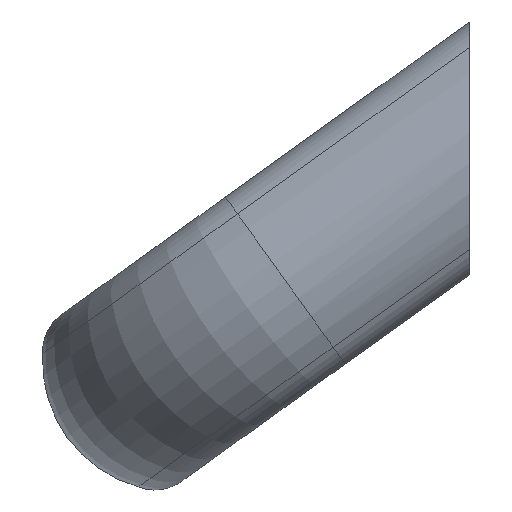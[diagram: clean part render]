
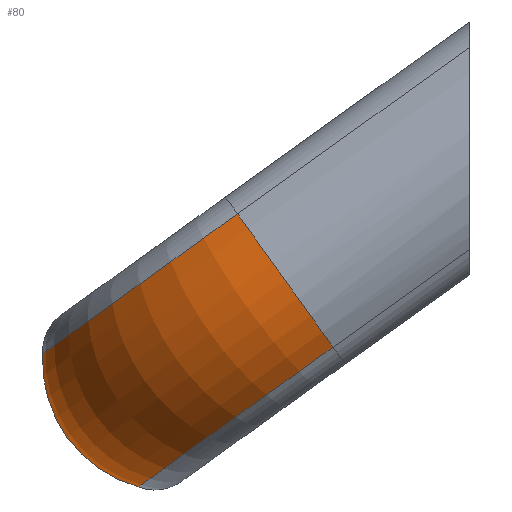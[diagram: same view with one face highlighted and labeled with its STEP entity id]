
A CAD part, left-side view. The second image highlights one B-rep face of the part: STEP entity #80.
In plain terms, the highlighted toroidal (fillet/blend) face has major radius 17.484 mm and minor radius 16.516 mm.
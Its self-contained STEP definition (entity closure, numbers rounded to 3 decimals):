
#80 = ADVANCED_FACE( '', ( #117 ), #118, .T. );
#117 = FACE_OUTER_BOUND( '', #181, .T. );
#118 = TOROIDAL_SURFACE( '', #182, 17.484, 16.516 );
#181 = EDGE_LOOP( '', ( #261, #262, #263, #264 ) );
#182 = AXIS2_PLACEMENT_3D( '', #265, #266, #267 );
#261 = ORIENTED_EDGE( '', *, *, #430, .T. );
#262 = ORIENTED_EDGE( '', *, *, #431, .F. );
#263 = ORIENTED_EDGE( '', *, *, #432, .F. );
#264 = ORIENTED_EDGE( '', *, *, #433, .T. );
#265 = CARTESIAN_POINT( '', ( -54.5, 23.279, -14.702 ) );
#266 = DIRECTION( '', ( 0., -0.583, -0.813 ) );
#267 = DIRECTION( '', ( 0., 0.813, -0.583 ) );
#430 = EDGE_CURVE( '', #491, #492, #493, .T. );
#431 = EDGE_CURVE( '', #494, #492, #495, .T. );
#432 = EDGE_CURVE( '', #496, #494, #497, .T. );
#433 = EDGE_CURVE( '', #496, #491, #498, .T. );
#491 = VERTEX_POINT( '', #574 );
#492 = VERTEX_POINT( '', #575 );
#493 = CIRCLE( '', #576, 30.334 );
#494 = VERTEX_POINT( '', #577 );
#495 = CIRCLE( '', #578, 16.516 );
#496 = VERTEX_POINT( '', #579 );
#497 = CIRCLE( '', #580, 30.334 );
#498 = CIRCLE( '', #581, 16.516 );
#574 = CARTESIAN_POINT( '', ( -84.834, 29.327, -6.272 ) );
#575 = CARTESIAN_POINT( '', ( -54.5, 53.974, -23.955 ) );
#576 = AXIS2_PLACEMENT_3D( '', #669, #670, #671 );
#577 = CARTESIAN_POINT( '', ( -54.5, 41.876, -40.816 ) );
#578 = AXIS2_PLACEMENT_3D( '', #672, #673, #674 );
#579 = CARTESIAN_POINT( '', ( -84.834, 17.23, -23.133 ) );
#580 = AXIS2_PLACEMENT_3D( '', #675, #676, #677 );
#581 = AXIS2_PLACEMENT_3D( '', #678, #679, #680 );
#669 = CARTESIAN_POINT( '', ( -54.5, 29.327, -6.272 ) );
#670 = DIRECTION( '', ( 0., -0.583, -0.813 ) );
#671 = DIRECTION( '', ( 0., 0.813, -0.583 ) );
#672 = CARTESIAN_POINT( '', ( -54.5, 37.485, -24.895 ) );
#673 = DIRECTION( '', ( 1., 0., 0. ) );
#674 = DIRECTION( '', ( 0., 0., -1. ) );
#675 = CARTESIAN_POINT( '', ( -54.5, 17.23, -23.133 ) );
#676 = DIRECTION( '', ( 0., -0.583, -0.813 ) );
#677 = DIRECTION( '', ( 0., 0.813, -0.583 ) );
#678 = CARTESIAN_POINT( '', ( -71.984, 23.279, -14.702 ) );
#679 = DIRECTION( '', ( 0., 0.813, -0.583 ) );
#680 = DIRECTION( '', ( -0.583, -0.474, -0.66 ) );
